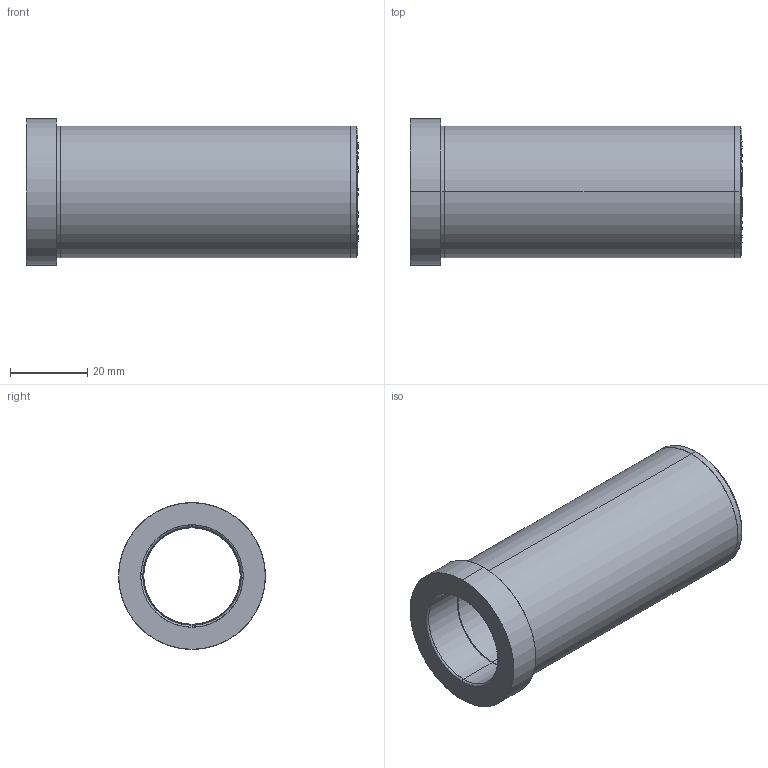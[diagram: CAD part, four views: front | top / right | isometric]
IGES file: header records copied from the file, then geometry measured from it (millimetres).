
Start section: SolidWorks IGES file using analytic representation for surfaces
Global section: file name: C:\Documents and Settings\kalite-mail\Desktop\IGS\D20\D20 - 25x86.IGS; native system: SolidWorks 2008; preprocessor: SolidWorks 2008; author: kalite-mail; date: 080617.114624; units: millimetre
Bounding box: 86 x 38 x 38 mm (x, y, z)
Surface area: 17286.1 mm2 (no closed solid volume)
Topology: 0 solids, 0 shells, 24 faces, 712 edges, 712 vertices
Faces by surface type: revolution 14, bspline 10
